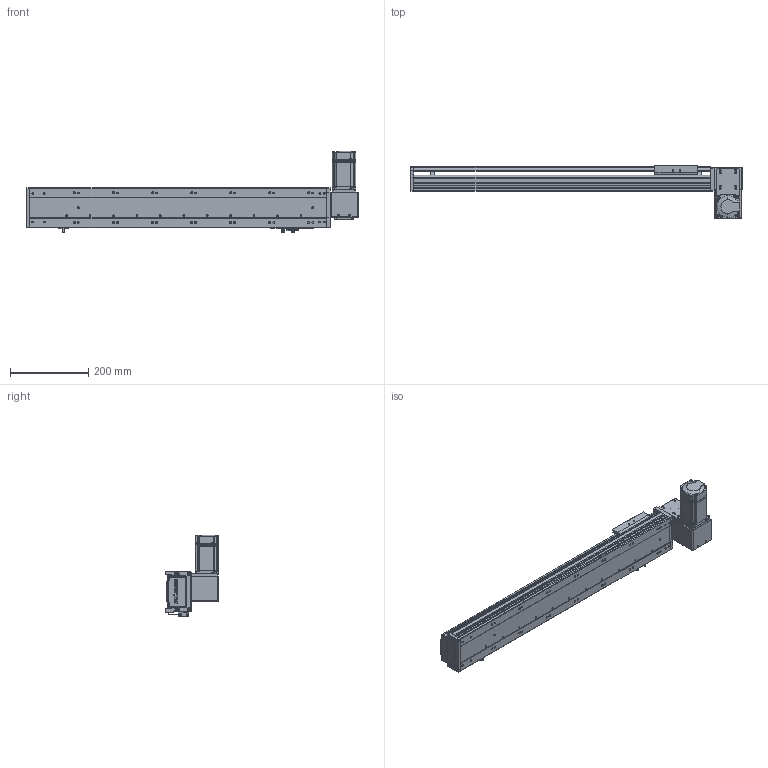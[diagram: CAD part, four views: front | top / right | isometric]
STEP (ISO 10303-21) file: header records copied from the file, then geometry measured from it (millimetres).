
FILE_DESCRIPTION (( 'STEP AP203' ), '1' );
FILE_NAME ('RY100-T-300-DR.SLDASM_550.step', '2024-04-25T03:22:15', ( '盈信电脑' ), ( '东莞市道滘镇水果街19号' ), 'SwSTEP 2.0', 'SolidWorks 2016', '' );
FILE_SCHEMA (( 'CONFIG_CONTROL_DESIGN' ));
Length unit declared in the file: millimetre
Products named in the file (16): RY100-T粣創揤踡裔; 侂狟200W萇儂; RY100-T-300-DR.SLDASM_550; RY100-T-300-RK倰第菁釱_550; RY100-T翋肮祭謫裔啣; 1; RY100-T肮祭謫臏賑輸; 覜茼ん672; RY100-T肮祭謫翋盓傅釱; 滅袉蝶18-10; RY100-T左右折电机安装板; RY100俋离覜茼え; RY100-T-300-RK倰第奻裔_550; RY100綴裔啣; RY100-T翋肮祭謫裔啣2; RY80-T肮祭謫狟殏俋欶
Assembly tree (19 placements, depth 3):
  RY100-T-300-DR.SLDASM_550
    RY100-T-300-RK倰第菁釱_550
    RY100-T-300-RK倰第奻裔_550
    RY100-T肮祭謫臏賑輸
    RY100綴裔啣
    覜茼ん672  x3
    RY100俋离覜茼え
    RY100-T肮祭謫翋盓傅釱
    RY100-T左右折电机安装板
    侂狟200W萇儂
      1
    RY100-T粣創揤踡裔
    滅袉蝶18-10  x2
    RY100-T翋肮祭謫裔啣2  x2
    RY100-T翋肮祭謫裔啣
    RY80-T肮祭謫狟殏俋欶
Bounding box: 850 x 135.5 x 209.7 mm (x, y, z)
Volume: 1922183.9 mm3; surface area: 774692.4 mm2
Topology: 18 solids, 18 shells, 2203 faces, 6115 edges, 3971 vertices
Faces by surface type: plane 1213, cylinder 781, cone 131, bspline 78
Entity records: 70336 total; most frequent: CARTESIAN_POINT 16922, ORIENTED_EDGE 10966, DIRECTION 10435, EDGE_CURVE 5483, VERTEX_POINT 3607, VECTOR 3573, LINE 3573, AXIS2_PLACEMENT_3D 3431
